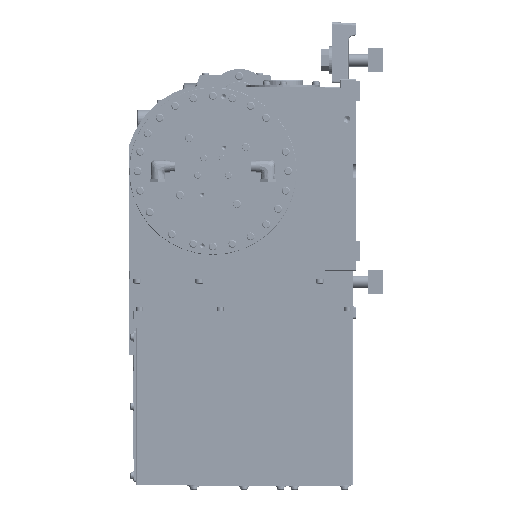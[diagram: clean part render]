
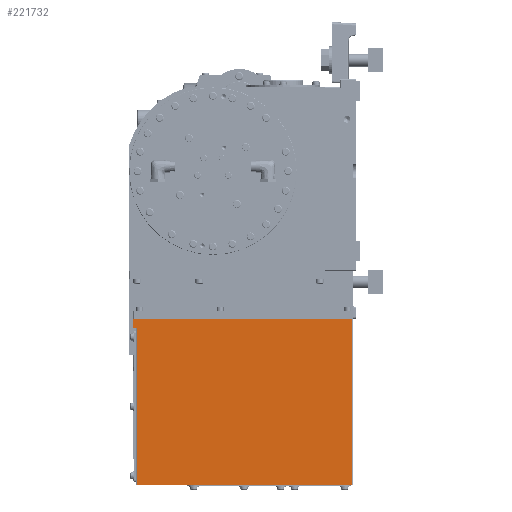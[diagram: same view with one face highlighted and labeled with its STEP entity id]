
A CAD part, left-side view. The second image highlights one B-rep face of the part: STEP entity #221732.
In plain terms, the highlighted planar face has unit normal (-1, 0, 0) as drawn and (0, 0, -1) by its records, which use the part's own axes.
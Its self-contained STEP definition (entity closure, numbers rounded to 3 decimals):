
#4220 = LINE ( 'NONE', #82469, #141073 ) ;
#5554 = EDGE_CURVE ( 'NONE', #205264, #49822, #4220, .T. ) ;
#8618 = DIRECTION ( 'NONE',  ( 0., 1., 0. ) ) ;
#15308 = LINE ( 'NONE', #129238, #199588 ) ;
#19057 = DIRECTION ( 'NONE',  ( 0., 1., 0. ) ) ;
#26804 = ORIENTED_EDGE ( 'NONE', *, *, #159067, .T. ) ;
#27183 = CARTESIAN_POINT ( 'NONE',  ( 208., 2., -177. ) ) ;
#27923 = CARTESIAN_POINT ( 'NONE',  ( 208., 271., -177. ) ) ;
#28575 = CARTESIAN_POINT ( 'NONE',  ( 12., 276., -177. ) ) ;
#29156 = EDGE_CURVE ( 'NONE', #74058, #97926, #15308, .T. ) ;
#30666 = ORIENTED_EDGE ( 'NONE', *, *, #116584, .F. ) ;
#41705 = ORIENTED_EDGE ( 'NONE', *, *, #144021, .F. ) ;
#45387 = VECTOR ( 'NONE', #174793, 1000. ) ;
#46597 = PLANE ( 'NONE',  #83802 ) ;
#49822 = VERTEX_POINT ( 'NONE', #73217 ) ;
#53431 = LINE ( 'NONE', #83628, #184536 ) ;
#54533 = ORIENTED_EDGE ( 'NONE', *, *, #29156, .T. ) ;
#57545 = FACE_OUTER_BOUND ( 'NONE', #213099, .T. ) ;
#57778 = ORIENTED_EDGE ( 'NONE', *, *, #70219, .F. ) ;
#65301 = DIRECTION ( 'NONE',  ( 0., 0., 1. ) ) ;
#66807 = DIRECTION ( 'NONE',  ( -1., 0., 0. ) ) ;
#70219 = EDGE_CURVE ( 'NONE', #205264, #97926, #187700, .T. ) ;
#73217 = CARTESIAN_POINT ( 'NONE',  ( 0., 2., -177. ) ) ;
#74058 = VERTEX_POINT ( 'NONE', #170401 ) ;
#82192 = DIRECTION ( 'NONE',  ( -1., 0., 0. ) ) ;
#82469 = CARTESIAN_POINT ( 'NONE',  ( 208., 2., -177. ) ) ;
#83628 = CARTESIAN_POINT ( 'NONE',  ( 12., 276., -177. ) ) ;
#83802 = AXIS2_PLACEMENT_3D ( 'NONE', #172155, #65301, #190073 ) ;
#97926 = VERTEX_POINT ( 'NONE', #27923 ) ;
#107418 = VERTEX_POINT ( 'NONE', #28575 ) ;
#116584 = EDGE_CURVE ( 'NONE', #107418, #180022, #192772, .T. ) ;
#119066 = CARTESIAN_POINT ( 'NONE',  ( 208., 276., -177. ) ) ;
#129238 = CARTESIAN_POINT ( 'NONE',  ( 208., 271., -177. ) ) ;
#141073 = VECTOR ( 'NONE', #82192, 1000. ) ;
#143874 = CARTESIAN_POINT ( 'NONE',  ( 0., 276., -177. ) ) ;
#144021 = EDGE_CURVE ( 'NONE', #74058, #107418, #53431, .T. ) ;
#145359 = VECTOR ( 'NONE', #66807, 1000. ) ;
#148836 = LINE ( 'NONE', #143874, #196278 ) ;
#156960 = CARTESIAN_POINT ( 'NONE',  ( 208., 276., -177. ) ) ;
#159067 = EDGE_CURVE ( 'NONE', #49822, #180022, #148836, .T. ) ;
#170401 = CARTESIAN_POINT ( 'NONE',  ( 12., 271., -177. ) ) ;
#172155 = CARTESIAN_POINT ( 'NONE',  ( 208., 276., -177. ) ) ;
#174793 = DIRECTION ( 'NONE',  ( 0., 1., 0. ) ) ;
#180022 = VERTEX_POINT ( 'NONE', #204984 ) ;
#184536 = VECTOR ( 'NONE', #8618, 1000. ) ;
#187700 = LINE ( 'NONE', #156960, #45387 ) ;
#190073 = DIRECTION ( 'NONE',  ( 0., -1., 0. ) ) ;
#192772 = LINE ( 'NONE', #119066, #145359 ) ;
#196278 = VECTOR ( 'NONE', #19057, 1000. ) ;
#199588 = VECTOR ( 'NONE', #218219, 1000. ) ;
#201573 = ORIENTED_EDGE ( 'NONE', *, *, #5554, .T. ) ;
#204984 = CARTESIAN_POINT ( 'NONE',  ( 0., 276., -177. ) ) ;
#205264 = VERTEX_POINT ( 'NONE', #27183 ) ;
#213099 = EDGE_LOOP ( 'NONE', ( #41705, #54533, #57778, #201573, #26804, #30666 ) ) ;
#218219 = DIRECTION ( 'NONE',  ( 1., 0., 0. ) ) ;
#221732 = ADVANCED_FACE ( 'NONE', ( #57545 ), #46597, .F. ) ;
